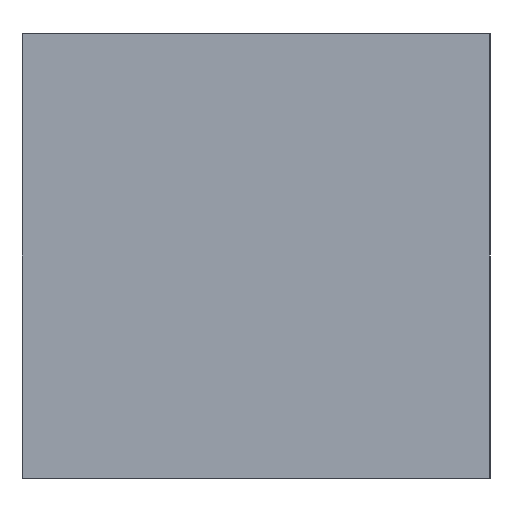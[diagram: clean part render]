
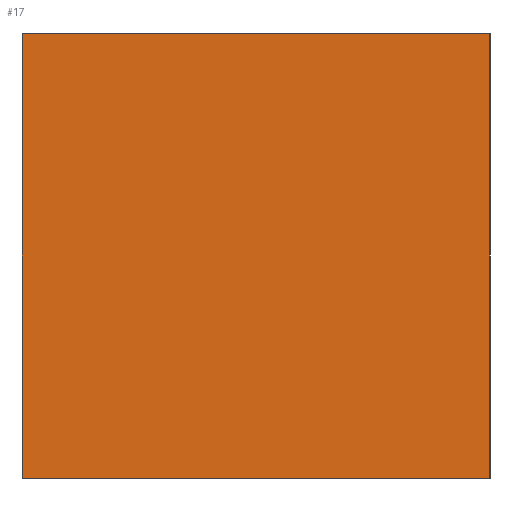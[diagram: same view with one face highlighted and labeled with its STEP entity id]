
A CAD part, left-side view. The second image highlights one B-rep face of the part: STEP entity #17.
In plain terms, the highlighted planar face has unit normal (-1, 0, 0).
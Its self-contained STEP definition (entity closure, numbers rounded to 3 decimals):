
#17 = ADVANCED_FACE('',(#18),#52,.F.);
#18 = FACE_BOUND('',#19,.F.);
#19 = EDGE_LOOP('',(#20,#30,#38,#46));
#20 = ORIENTED_EDGE('',*,*,#21,.F.);
#21 = EDGE_CURVE('',#22,#24,#26,.T.);
#22 = VERTEX_POINT('',#23);
#23 = CARTESIAN_POINT('',(-17.,-15.75,-38.9));
#24 = VERTEX_POINT('',#25);
#25 = CARTESIAN_POINT('',(-17.,-15.75,-9.));
#26 = LINE('',#27,#28);
#27 = CARTESIAN_POINT('',(-17.,-15.75,-38.9));
#28 = VECTOR('',#29,1.);
#29 = DIRECTION('',(0.,0.,1.));
#30 = ORIENTED_EDGE('',*,*,#31,.T.);
#31 = EDGE_CURVE('',#22,#32,#34,.T.);
#32 = VERTEX_POINT('',#33);
#33 = CARTESIAN_POINT('',(-17.,15.75,-38.9));
#34 = LINE('',#35,#36);
#35 = CARTESIAN_POINT('',(-17.,-15.75,-38.9));
#36 = VECTOR('',#37,1.);
#37 = DIRECTION('',(-0.,1.,0.));
#38 = ORIENTED_EDGE('',*,*,#39,.T.);
#39 = EDGE_CURVE('',#32,#40,#42,.T.);
#40 = VERTEX_POINT('',#41);
#41 = CARTESIAN_POINT('',(-17.,15.75,-9.));
#42 = LINE('',#43,#44);
#43 = CARTESIAN_POINT('',(-17.,15.75,-38.9));
#44 = VECTOR('',#45,1.);
#45 = DIRECTION('',(0.,0.,1.));
#46 = ORIENTED_EDGE('',*,*,#47,.F.);
#47 = EDGE_CURVE('',#24,#40,#48,.T.);
#48 = LINE('',#49,#50);
#49 = CARTESIAN_POINT('',(-17.,-15.75,-9.));
#50 = VECTOR('',#51,1.);
#51 = DIRECTION('',(-0.,1.,0.));
#52 = PLANE('',#53);
#53 = AXIS2_PLACEMENT_3D('',#54,#55,#56);
#54 = CARTESIAN_POINT('',(-17.,-15.75,-38.9));
#55 = DIRECTION('',(1.,0.,-0.));
#56 = DIRECTION('',(0.,0.,1.));
